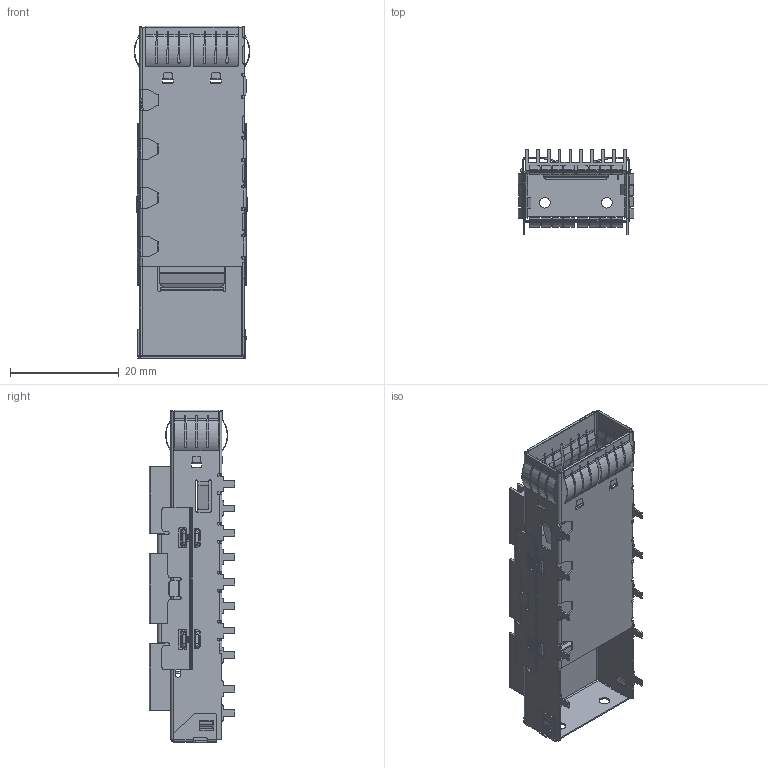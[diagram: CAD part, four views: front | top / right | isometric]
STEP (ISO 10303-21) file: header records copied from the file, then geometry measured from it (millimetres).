
FILE_DESCRIPTION((''),'2;1');
FILE_NAME('3D-CUSTOMER_DRAWING-Q112_CAGE_P','2026-06-22T17:36:37',('39002408'),(''),'CREO PARAMETRIC BY PTC INC, 2019471','CREO PARAMETRIC BY PTC INC, 2019471','');
FILE_SCHEMA(('CONFIG_CONTROL_DESIGN'));
Products named in the file (1): 3D-CUSTOMER_DRAWING-Q112_CAGE_P
Bounding box: 21.24 x 15.75 x 61.15 mm (x, y, z)
Volume: 2845.1 mm3; surface area: 11265 mm2
Topology: 1 solids, 2 shells, 2385 faces, 6749 edges, 4248 vertices
Faces by surface type: plane 1193, cylinder 910, bspline 248, sphere 32, extrusion 2
Entity records: 85372 total; most frequent: CARTESIAN_POINT 24231, ORIENTED_EDGE 13434, DIRECTION 12043, EDGE_CURVE 6717, VECTOR 4469, LINE 4467, VERTEX_POINT 4248, AXIS2_PLACEMENT_3D 3787
